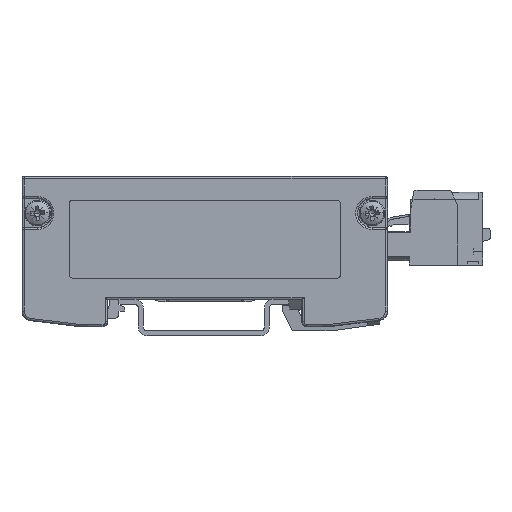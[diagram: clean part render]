
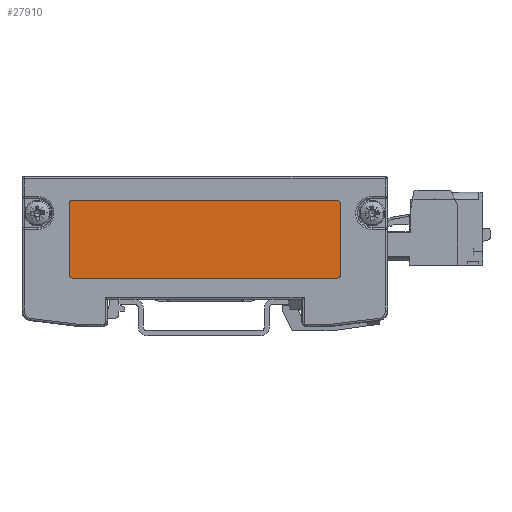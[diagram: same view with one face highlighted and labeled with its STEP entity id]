
A CAD part, left-side view. The second image highlights one B-rep face of the part: STEP entity #27910.
In plain terms, the highlighted planar face has unit normal (-1, 0, 0) as drawn and (0, 0, -1) by its records, which use the part's own axes.
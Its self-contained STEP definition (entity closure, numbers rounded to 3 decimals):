
#435 = EDGE_CURVE ( 'NONE', #76213, #35890, #37047, .T. ) ;
#2358 = ORIENTED_EDGE ( 'NONE', *, *, #435, .T. ) ;
#5686 = DIRECTION ( 'NONE',  ( -1., 0., 0. ) ) ;
#7868 = VERTEX_POINT ( 'NONE', #64831 ) ;
#8544 = DIRECTION ( 'NONE',  ( 0., -1., 0. ) ) ;
#8616 = CARTESIAN_POINT ( 'NONE',  ( -5., 28., -3.9 ) ) ;
#8894 = EDGE_LOOP ( 'NONE', ( #2358, #82738, #80289, #17490, #29347, #66315, #12320, #67194 ) ) ;
#9283 = EDGE_CURVE ( 'NONE', #49191, #67307, #59109, .T. ) ;
#12320 = ORIENTED_EDGE ( 'NONE', *, *, #74556, .T. ) ;
#15340 = DIRECTION ( 'NONE',  ( 0., 0., -1. ) ) ;
#15368 = AXIS2_PLACEMENT_3D ( 'NONE', #74937, #35674, #28259 ) ;
#15702 = AXIS2_PLACEMENT_3D ( 'NONE', #80527, #15340, #21031 ) ;
#17257 = DIRECTION ( 'NONE',  ( 1., 0., 0. ) ) ;
#17490 = ORIENTED_EDGE ( 'NONE', *, *, #9283, .T. ) ;
#19397 = VECTOR ( 'NONE', #25887, 1000. ) ;
#19587 = FACE_OUTER_BOUND ( 'NONE', #8894, .T. ) ;
#21031 = DIRECTION ( 'NONE',  ( -1., 0., 0. ) ) ;
#21550 = EDGE_CURVE ( 'NONE', #35890, #7868, #28945, .T. ) ;
#22368 = CARTESIAN_POINT ( 'NONE',  ( -21., -28., -3.9 ) ) ;
#24953 = VECTOR ( 'NONE', #17257, 1000. ) ;
#25887 = DIRECTION ( 'NONE',  ( -1., 0., 0. ) ) ;
#26633 = CARTESIAN_POINT ( 'NONE',  ( -21., -27.25, -3.9 ) ) ;
#26682 = DIRECTION ( 'NONE',  ( 0., 0., -1. ) ) ;
#27910 = ADVANCED_FACE ( 'NONE', ( #19587 ), #51717, .T. ) ;
#28259 = DIRECTION ( 'NONE',  ( -1., 0., 0. ) ) ;
#28945 = CIRCLE ( 'NONE', #15368, 0.75 ) ;
#29347 = ORIENTED_EDGE ( 'NONE', *, *, #41195, .T. ) ;
#30873 = EDGE_CURVE ( 'NONE', #59790, #57832, #60171, .T. ) ;
#32642 = LINE ( 'NONE', #84050, #19397 ) ;
#35674 = DIRECTION ( 'NONE',  ( 0., 0., -1. ) ) ;
#35890 = VERTEX_POINT ( 'NONE', #68555 ) ;
#37047 = LINE ( 'NONE', #22368, #68867 ) ;
#37670 = DIRECTION ( 'NONE',  ( -1., 0., 0. ) ) ;
#41195 = EDGE_CURVE ( 'NONE', #67307, #59790, #54581, .T. ) ;
#44525 = DIRECTION ( 'NONE',  ( 0., 0., -1. ) ) ;
#45790 = EDGE_CURVE ( 'NONE', #7868, #49191, #46444, .T. ) ;
#46444 = LINE ( 'NONE', #49534, #24953 ) ;
#47353 = AXIS2_PLACEMENT_3D ( 'NONE', #64660, #71172, #5686 ) ;
#49191 = VERTEX_POINT ( 'NONE', #67652 ) ;
#49534 = CARTESIAN_POINT ( 'NONE',  ( -21., 28., -3.9 ) ) ;
#50936 = EDGE_CURVE ( 'NONE', #70454, #76213, #58195, .T. ) ;
#51717 = PLANE ( 'NONE',  #47353 ) ;
#54581 = LINE ( 'NONE', #8616, #82250 ) ;
#57832 = VERTEX_POINT ( 'NONE', #69792 ) ;
#58195 = CIRCLE ( 'NONE', #74589, 0.75 ) ;
#59109 = CIRCLE ( 'NONE', #59759, 0.75 ) ;
#59759 = AXIS2_PLACEMENT_3D ( 'NONE', #65983, #26682, #72518 ) ;
#59790 = VERTEX_POINT ( 'NONE', #78289 ) ;
#60171 = CIRCLE ( 'NONE', #15702, 0.75 ) ;
#64652 = CARTESIAN_POINT ( 'NONE',  ( -20.25, -27.25, -3.9 ) ) ;
#64660 = CARTESIAN_POINT ( 'NONE',  ( 0., 0., -3.9 ) ) ;
#64831 = CARTESIAN_POINT ( 'NONE',  ( -20.25, 28., -3.9 ) ) ;
#65983 = CARTESIAN_POINT ( 'NONE',  ( -5.75, 27.25, -3.9 ) ) ;
#66315 = ORIENTED_EDGE ( 'NONE', *, *, #30873, .T. ) ;
#67194 = ORIENTED_EDGE ( 'NONE', *, *, #50936, .T. ) ;
#67307 = VERTEX_POINT ( 'NONE', #70504 ) ;
#67652 = CARTESIAN_POINT ( 'NONE',  ( -5.75, 28., -3.9 ) ) ;
#68555 = CARTESIAN_POINT ( 'NONE',  ( -21., 27.25, -3.9 ) ) ;
#68867 = VECTOR ( 'NONE', #82133, 1000. ) ;
#69792 = CARTESIAN_POINT ( 'NONE',  ( -5.75, -28., -3.9 ) ) ;
#70454 = VERTEX_POINT ( 'NONE', #81136 ) ;
#70504 = CARTESIAN_POINT ( 'NONE',  ( -5., 27.25, -3.9 ) ) ;
#71172 = DIRECTION ( 'NONE',  ( 0., 0., -1. ) ) ;
#72518 = DIRECTION ( 'NONE',  ( -1., 0., 0. ) ) ;
#74556 = EDGE_CURVE ( 'NONE', #57832, #70454, #32642, .T. ) ;
#74589 = AXIS2_PLACEMENT_3D ( 'NONE', #64652, #44525, #37670 ) ;
#74937 = CARTESIAN_POINT ( 'NONE',  ( -20.25, 27.25, -3.9 ) ) ;
#76213 = VERTEX_POINT ( 'NONE', #26633 ) ;
#78289 = CARTESIAN_POINT ( 'NONE',  ( -5., -27.25, -3.9 ) ) ;
#80289 = ORIENTED_EDGE ( 'NONE', *, *, #45790, .T. ) ;
#80527 = CARTESIAN_POINT ( 'NONE',  ( -5.75, -27.25, -3.9 ) ) ;
#81136 = CARTESIAN_POINT ( 'NONE',  ( -20.25, -28., -3.9 ) ) ;
#82133 = DIRECTION ( 'NONE',  ( 0., 1., 0. ) ) ;
#82250 = VECTOR ( 'NONE', #8544, 1000. ) ;
#82738 = ORIENTED_EDGE ( 'NONE', *, *, #21550, .T. ) ;
#84050 = CARTESIAN_POINT ( 'NONE',  ( -5., -28., -3.9 ) ) ;
